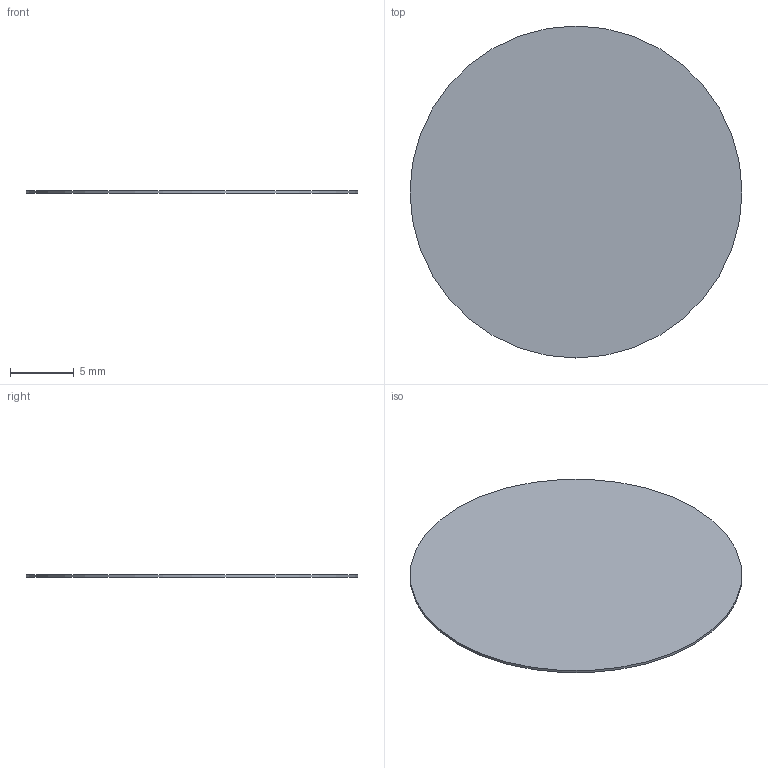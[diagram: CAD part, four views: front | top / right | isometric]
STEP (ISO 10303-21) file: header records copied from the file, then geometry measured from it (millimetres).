
FILE_DESCRIPTION(('FreeCAD Model'),'2;1');
FILE_NAME('Open CASCADE Shape Model','2026-09-05T20:39:50',('FreeCAD'),( 'FreeCAD'),'Open CASCADE STEP processor 7.8','FreeCAD','Unknown');
FILE_SCHEMA(('AUTOMOTIVE_DESIGN { 1 0 10303 214 1 1 1 1 }'));
Length unit declared in the file: millimetre
Products named in the file (1): Open CASCADE STEP translator 7.8 5
Bounding box: 26 x 26 x 0.2 mm (x, y, z)
Volume: 106.2 mm3; surface area: 1078.2 mm2
Topology: 1 solids, 1 shells, 3 faces, 3 edges, 2 vertices
Faces by surface type: plane 2, cylinder 1
Full cylindrical faces by diameter (mm): 26 x1
Entity records: 69 total; most frequent: DIRECTION 13, CARTESIAN_POINT 9, AXIS2_PLACEMENT_3D 6, ORIENTED_EDGE 6, ADVANCED_FACE 3, FACE_BOUND 3, EDGE_LOOP 3, EDGE_CURVE 3
